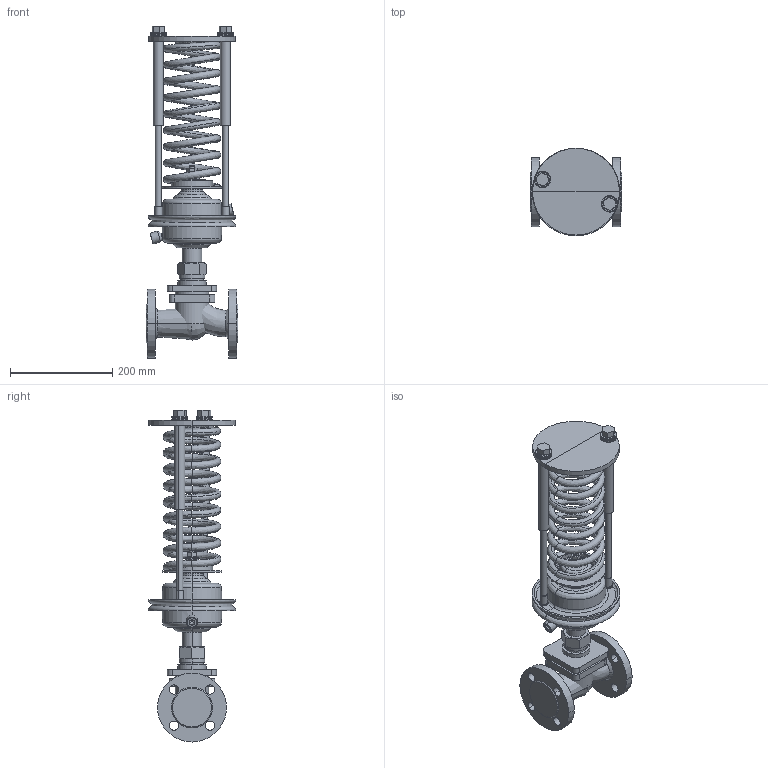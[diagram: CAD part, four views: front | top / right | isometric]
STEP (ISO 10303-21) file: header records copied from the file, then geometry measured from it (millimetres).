
FILE_DESCRIPTION(/* description */ (''),/* implementation_level */ '2;1');
FILE_NAME(/* name */ 'ETM_Регулятор давления_УРРД_НЗ_РД_DN32 0.3—1.2 МПа',/* time_stamp */ '2026-04-24T18:46:06+03:00',/* author */ (''),/* organization */ (''),/* preprocessor_version */ 'ST-DEVELOPER v20',/* originating_system */ '',/* authorisation */ '');
FILE_SCHEMA (('AP242_MANAGED_MODEL_BASED_3D_ENGINEERING_MIM_LF { 1 0 10303 442 1 1 4 }'));
Length unit declared in the file: millimetre
Products named in the file (13): TopLevelAssembly; Выдавливание; Переход; Выдавливание_
1; Переход_1; Переход_2; Переход_3; Выдавливание_
2; Объемная геометрия 
присоединена; Выдавливание_
3; Объемная геометрия 
присоединена_1; Выдавливание_
4; Пружина красная
Assembly tree (12 placements, depth 2):
  TopLevelAssembly
    Выдавливание
    Переход
    Выдавливание_
1
    Переход_1
    Переход_2
    Переход_3
    Выдавливание_
2
    Объемная геометрия 
присоединена
    Выдавливание_
3
    Объемная геометрия 
присоединена_1
    Выдавливание_
4
    Пружина красная
Bounding box: 180 x 171.97 x 650.25 mm (x, y, z)
Volume: 3374431.8 mm3; surface area: 622887 mm2
Topology: 31 solids, 31 shells, 518 faces, 1041 edges, 565 vertices
Faces by surface type: plane 189, bspline 177, cylinder 142, cone 10
Entity records: 16518 total; most frequent: CARTESIAN_POINT 5341, DIRECTION 2349, ORIENTED_EDGE 2078, EDGE_CURVE 1039, AXIS2_PLACEMENT_3D 978, CIRCLE 611, VERTEX_POINT 565, EDGE_LOOP 540
